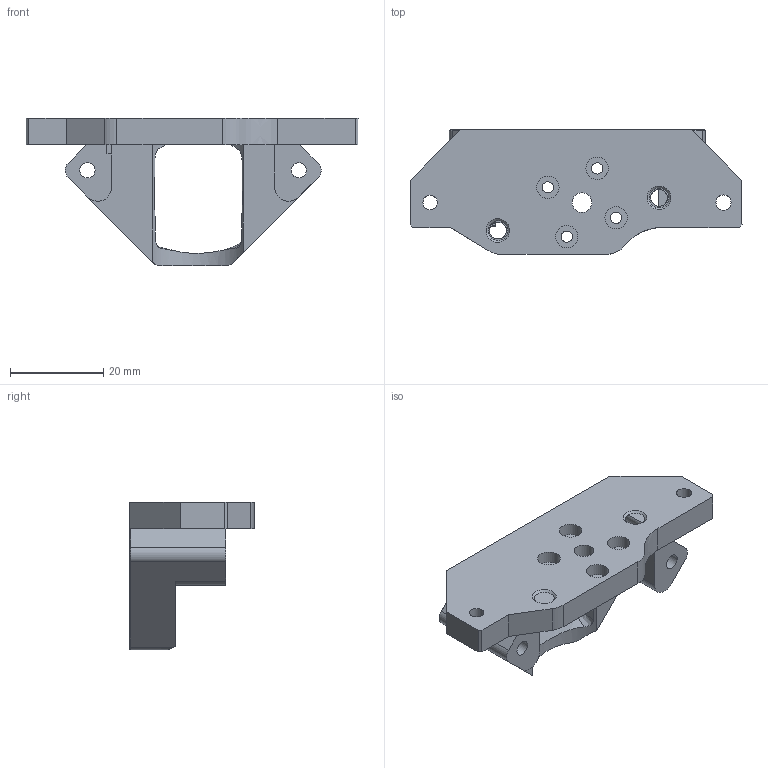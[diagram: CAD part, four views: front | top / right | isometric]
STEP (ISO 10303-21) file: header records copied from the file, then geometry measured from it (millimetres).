
FILE_DESCRIPTION(/* description */ (''),/* implementation_level */ '2;1');
FILE_NAME(/* name */ 'C:/Users/Martin/Documents/icarus-2.1/icarus-2-current-step-files/2-mounts/mount-orbiter-1.5-dragonfly-bmo-2.1.step',/* time_stamp */ '2022-08-22T21:33:39+02:00',/* author */ (''),/* organization */ (''),/* preprocessor_version */ 'ST-DEVELOPER v19',/* originating_system */ 'Autodesk Translation Framework v11.7.0.108',/* authorisation */ '');
FILE_SCHEMA (('AUTOMOTIVE_DESIGN { 1 0 10303 214 3 1 1 }'));
Length unit declared in the file: millimetre
Products named in the file (1): icarus-2-hotend-extruder-mounts
Bounding box: 71.07 x 26.66 x 31.68 mm (x, y, z)
Volume: 13608.9 mm3; surface area: 7539.5 mm2
Topology: 1 solids, 1 shells, 92 faces, 264 edges, 175 vertices
Faces by surface type: plane 41, cylinder 25, bspline 14, cone 12
Full cylindrical faces by diameter (mm): 2.4 x4, 3.1 x1, 3.25 x4, 3.6 x2, 4.2 x1, 4.8 x4
Entity records: 3707 total; most frequent: CARTESIAN_POINT 1269, ORIENTED_EDGE 528, DIRECTION 447, EDGE_CURVE 264, VERTEX_POINT 175, AXIS2_PLACEMENT_3D 152, LINE 143, VECTOR 143
